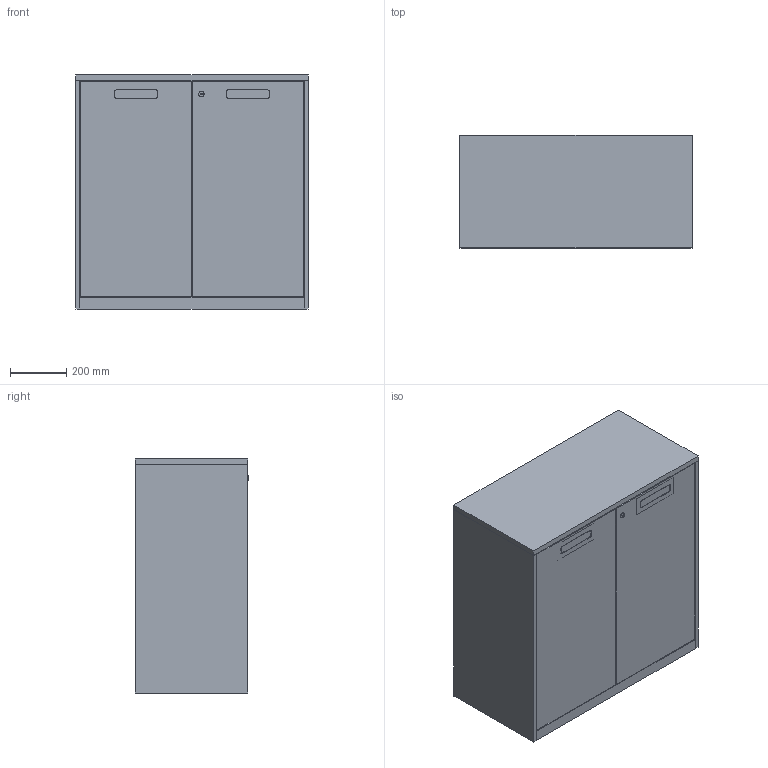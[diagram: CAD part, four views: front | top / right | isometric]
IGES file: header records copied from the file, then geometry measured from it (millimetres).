
Start section: Comment
Global section: file name: SB-H2-2.igs; native system:  By UGS Corp.; preprocessor: XPlus GENERIC/IGES 3.0; author: Author; organization: Title; date: 20170209.122640; units: inch
Bounding box: 828 x 402 x 832.01 mm (x, y, z)
Surface area: 4767330.3 mm2 (no closed solid volume)
Topology: 0 solids, 0 shells, 72 faces, 336 edges, 336 vertices
Faces by surface type: bspline 72
